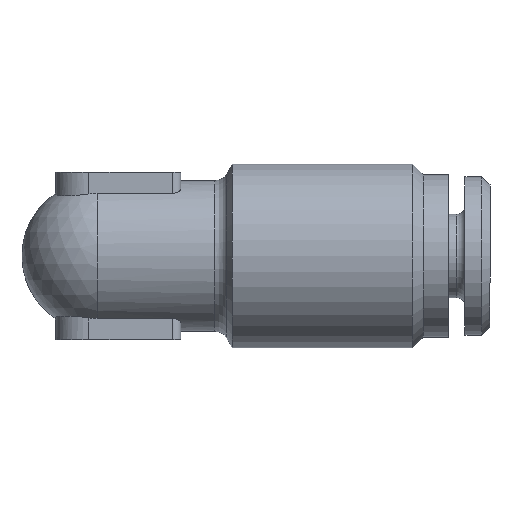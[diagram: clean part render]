
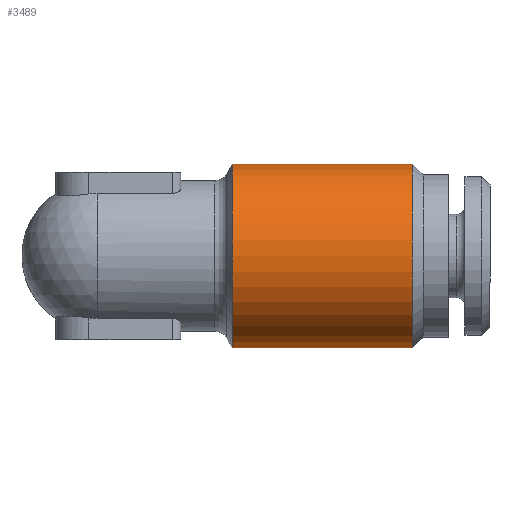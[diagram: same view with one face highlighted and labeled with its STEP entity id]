
A CAD part, top view. The second image highlights one B-rep face of the part: STEP entity #3489.
In plain terms, the highlighted cylindrical face has radius 5.5 mm (diameter 11 mm), a full revolution.
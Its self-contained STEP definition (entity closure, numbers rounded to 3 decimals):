
#1429=CYLINDRICAL_SURFACE('',#3360,5.5);
#1520=ORIENTED_EDGE('',*,*,#1915,.T.);
#1521=ORIENTED_EDGE('',*,*,#1916,.F.);
#1749=CIRCLE('',#3359,5.5);
#1750=CIRCLE('',#3361,5.5);
#1815=VERTEX_POINT('',#2773);
#1816=VERTEX_POINT('',#2776);
#1915=EDGE_CURVE('',#1815,#1815,#1749,.T.);
#1916=EDGE_CURVE('',#1816,#1816,#1750,.T.);
#2058=EDGE_LOOP('',(#1520));
#2059=EDGE_LOOP('',(#1521));
#2169=FACE_BOUND('',#2058,.T.);
#2170=FACE_BOUND('',#2059,.T.);
#2326=DIRECTION('',(-1.,0.,0.));
#2327=DIRECTION('',(0.,0.,5.5));
#2328=DIRECTION('',(-1.,0.,0.));
#2329=DIRECTION('',(0.,1.,0.));
#2330=DIRECTION('',(-1.,0.,0.));
#2331=DIRECTION('',(0.,0.,5.5));
#2773=CARTESIAN_POINT('',(-5.628,66.547,0.));
#2774=CARTESIAN_POINT('',(-5.628,61.047,0.));
#2775=CARTESIAN_POINT('',(-5.628,61.047,0.));
#2776=CARTESIAN_POINT('',(-16.4,66.547,0.));
#2777=CARTESIAN_POINT('',(-16.4,61.047,0.));
#3359=AXIS2_PLACEMENT_3D('',#2774,#2326,#2327);
#3360=AXIS2_PLACEMENT_3D('',#2775,#2328,#2329);
#3361=AXIS2_PLACEMENT_3D('',#2777,#2330,#2331);
#3489=ADVANCED_FACE('',(#2169,#2170),#1429,.T.);
